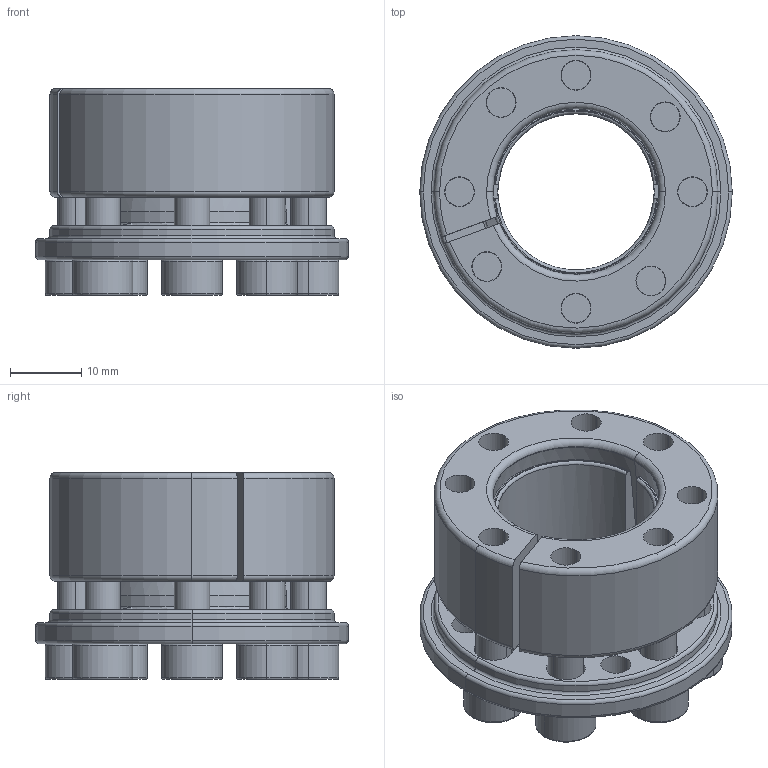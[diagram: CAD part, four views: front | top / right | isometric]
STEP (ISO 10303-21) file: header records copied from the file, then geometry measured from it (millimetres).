
FILE_DESCRIPTION (( 'STEP AP203' ), '1' );
FILE_NAME ('SAPL-A-22-40.STEP', '2013-07-22T07:27:29', ( 'MYCOM' ), ( '' ), 'SwSTEP 2.0', 'SolidWorks 2012', '' );
FILE_SCHEMA (( 'CONFIG_CONTROL_DESIGN' ));
Length unit declared in the file: millimetre
Products named in the file (1): SAPL-A-22-40
Bounding box: 44 x 44 x 29.1 mm (x, y, z)
Volume: 20283.3 mm3; surface area: 11953 mm2
Topology: 1 solids, 1 shells, 374 faces, 915 edges, 540 vertices
Faces by surface type: plane 135, cylinder 99, torus 79, cone 61
Entity records: 11174 total; most frequent: DIRECTION 2080, CARTESIAN_POINT 2071, ORIENTED_EDGE 1798, EDGE_CURVE 899, AXIS2_PLACEMENT_3D 856, VERTEX_POINT 540, CIRCLE 481, EDGE_LOOP 417
